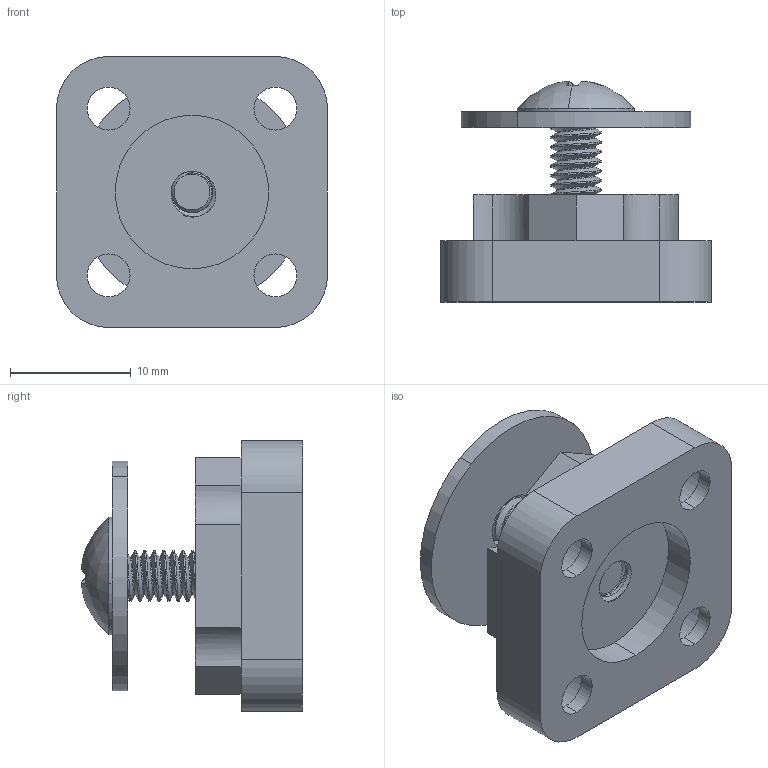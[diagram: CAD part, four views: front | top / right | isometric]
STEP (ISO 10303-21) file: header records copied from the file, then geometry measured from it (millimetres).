
FILE_DESCRIPTION (( 'STEP AP203' ), '1' );
FILE_NAME ('545436 assembly.STEP', '2016-08-17T14:29:57', ( '' ), ( '' ), 'SwSTEP 2.0', 'SolidWorks 2014', '' );
FILE_SCHEMA (( 'CONFIG_CONTROL_DESIGN' ));
Length unit declared in the file: inch
Products named in the file (4): 91090A101_91090A101; 545436; 545436 assembly; 91770A194_91770A194
Assembly tree (3 placements, depth 2):
  545436 assembly
    545436
    91770A194_91770A194
    91090A101_91090A101
Bounding box: 22.47 x 18.29 x 22.47 mm (x, y, z)
Volume: 2995 mm3; surface area: 3184.7 mm2
Topology: 3 solids, 3 shells, 150 faces, 421 edges, 280 vertices
Faces by surface type: cylinder 95, plane 39, cone 9, bspline 5, sphere 2
Entity records: 9856 total; most frequent: CARTESIAN_POINT 5891, ORIENTED_EDGE 842, DIRECTION 677, EDGE_CURVE 421, VERTEX_POINT 280, AXIS2_PLACEMENT_3D 259, EDGE_LOOP 165, LINE 159
